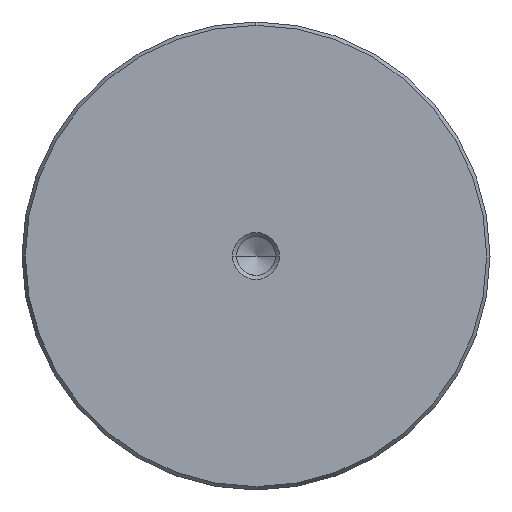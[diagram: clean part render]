
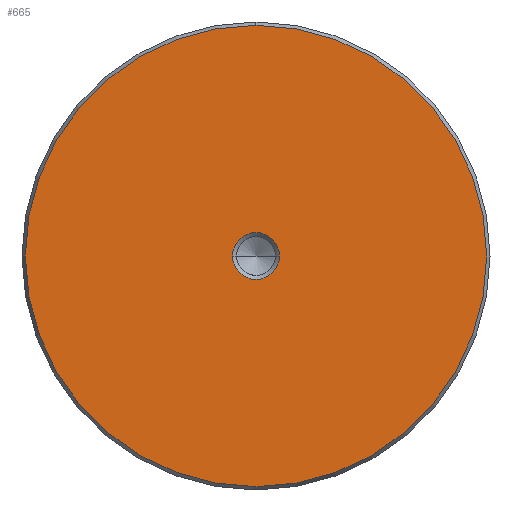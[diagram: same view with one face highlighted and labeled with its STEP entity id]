
A CAD part, left-side view. The second image highlights one B-rep face of the part: STEP entity #665.
In plain terms, the highlighted planar face has unit normal (-1, 0, 0).
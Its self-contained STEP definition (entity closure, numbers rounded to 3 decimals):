
#579=CARTESIAN_POINT('Vertex',(0.,0.,-39.423)) ;
#582=CARTESIAN_POINT('Axis2P3D Location',(0.,0.,0.)) ;
#586=CARTESIAN_POINT('Vertex',(0.,39.423,0.)) ;
#589=CARTESIAN_POINT('Axis2P3D Location',(0.,0.,0.)) ;
#593=CARTESIAN_POINT('Vertex',(0.,0.,39.423)) ;
#615=CARTESIAN_POINT('Axis2P3D Location',(0.,0.,0.)) ;
#619=CARTESIAN_POINT('Vertex',(0.,-39.423,0.)) ;
#622=CARTESIAN_POINT('Axis2P3D Location',(0.,0.,0.)) ;
#636=CARTESIAN_POINT('Axis2P3D Location',(0.,0.,0.)) ;
#647=CARTESIAN_POINT('Axis2P3D Location',(0.,0.,0.)) ;
#651=CARTESIAN_POINT('Vertex',(0.,4.,0.)) ;
#653=CARTESIAN_POINT('Vertex',(0.,-4.,0.)) ;
#656=CARTESIAN_POINT('Axis2P3D Location',(0.,0.,0.)) ;
#583=DIRECTION('Axis2P3D Direction',(1.,0.,-0.)) ;
#590=DIRECTION('Axis2P3D Direction',(1.,0.,-0.)) ;
#616=DIRECTION('Axis2P3D Direction',(1.,0.,-0.)) ;
#623=DIRECTION('Axis2P3D Direction',(1.,0.,-0.)) ;
#637=DIRECTION('Axis2P3D Direction',(1.,0.,-0.)) ;
#638=DIRECTION('Axis2P3D XDirection',(-0.,0.,-1.)) ;
#648=DIRECTION('Axis2P3D Direction',(1.,0.,-0.)) ;
#657=DIRECTION('Axis2P3D Direction',(1.,0.,-0.)) ;
#584=AXIS2_PLACEMENT_3D('Circle Axis2P3D',#582,#583,$) ;
#591=AXIS2_PLACEMENT_3D('Circle Axis2P3D',#589,#590,$) ;
#617=AXIS2_PLACEMENT_3D('Circle Axis2P3D',#615,#616,$) ;
#624=AXIS2_PLACEMENT_3D('Circle Axis2P3D',#622,#623,$) ;
#639=AXIS2_PLACEMENT_3D('Plane Axis2P3D',#636,#637,#638) ;
#649=AXIS2_PLACEMENT_3D('Circle Axis2P3D',#647,#648,$) ;
#658=AXIS2_PLACEMENT_3D('Circle Axis2P3D',#656,#657,$) ;
#642=ORIENTED_EDGE('',*,*,#588,.F.) ;
#643=ORIENTED_EDGE('',*,*,#626,.F.) ;
#644=ORIENTED_EDGE('',*,*,#621,.F.) ;
#645=ORIENTED_EDGE('',*,*,#595,.F.) ;
#662=ORIENTED_EDGE('',*,*,#655,.T.) ;
#663=ORIENTED_EDGE('',*,*,#660,.T.) ;
#664=FACE_BOUND('',#661,.T.) ;
#665=ADVANCED_FACE('720-80x400',(#646,#664),#640,.F.) ;
#585=CIRCLE('generated circle',#584,39.423) ;
#592=CIRCLE('generated circle',#591,39.423) ;
#618=CIRCLE('generated circle',#617,39.423) ;
#625=CIRCLE('generated circle',#624,39.423) ;
#650=CIRCLE('generated circle',#649,4.) ;
#659=CIRCLE('generated circle',#658,4.) ;
#588=EDGE_CURVE('',#580,#587,#585,.T.) ;
#595=EDGE_CURVE('',#587,#594,#592,.T.) ;
#621=EDGE_CURVE('',#594,#620,#618,.T.) ;
#626=EDGE_CURVE('',#620,#580,#625,.T.) ;
#655=EDGE_CURVE('',#652,#654,#650,.T.) ;
#660=EDGE_CURVE('',#654,#652,#659,.T.) ;
#641=EDGE_LOOP('',(#642,#643,#644,#645)) ;
#661=EDGE_LOOP('',(#662,#663)) ;
#646=FACE_OUTER_BOUND('',#641,.T.) ;
#640=PLANE('Plane',#639) ;
#580=VERTEX_POINT('',#579) ;
#587=VERTEX_POINT('',#586) ;
#594=VERTEX_POINT('',#593) ;
#620=VERTEX_POINT('',#619) ;
#652=VERTEX_POINT('',#651) ;
#654=VERTEX_POINT('',#653) ;
